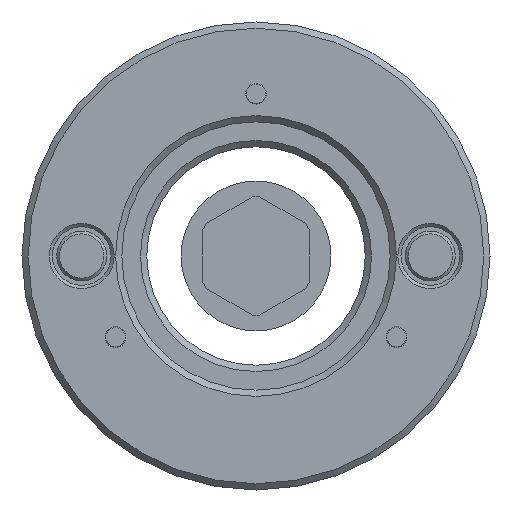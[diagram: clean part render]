
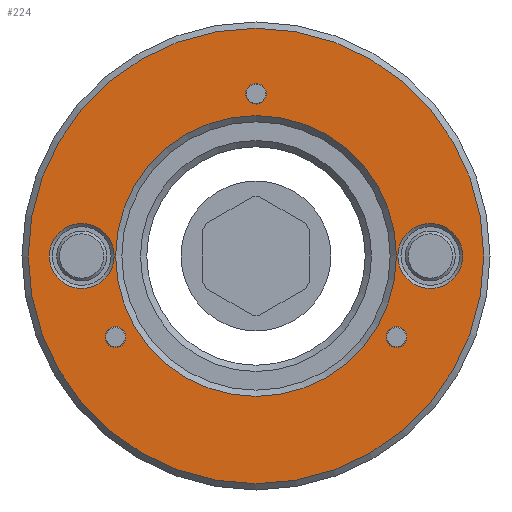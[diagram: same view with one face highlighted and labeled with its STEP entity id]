
A CAD part, front view. The second image highlights one B-rep face of the part: STEP entity #224.
In plain terms, the highlighted planar face has unit normal (0, -1, 0).
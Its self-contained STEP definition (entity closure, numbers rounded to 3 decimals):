
#224 = ADVANCED_FACE( '', ( #405, #406, #407, #408, #409, #410, #411 ), #412, .T. );
#405 = FACE_OUTER_BOUND( '', #781, .T. );
#406 = FACE_BOUND( '', #782, .T. );
#407 = FACE_BOUND( '', #783, .T. );
#408 = FACE_BOUND( '', #784, .T. );
#409 = FACE_BOUND( '', #785, .T. );
#410 = FACE_BOUND( '', #786, .T. );
#411 = FACE_BOUND( '', #787, .T. );
#412 = PLANE( '', #788 );
#781 = EDGE_LOOP( '', ( #1203 ) );
#782 = EDGE_LOOP( '', ( #1204 ) );
#783 = EDGE_LOOP( '', ( #1205 ) );
#784 = EDGE_LOOP( '', ( #1206 ) );
#785 = EDGE_LOOP( '', ( #1207 ) );
#786 = EDGE_LOOP( '', ( #1208 ) );
#787 = EDGE_LOOP( '', ( #1209 ) );
#788 = AXIS2_PLACEMENT_3D( '', #1210, #1211, #1212 );
#1203 = ORIENTED_EDGE( '', *, *, #2017, .T. );
#1204 = ORIENTED_EDGE( '', *, *, #2000, .T. );
#1205 = ORIENTED_EDGE( '', *, *, #2018, .F. );
#1206 = ORIENTED_EDGE( '', *, *, #2006, .F. );
#1207 = ORIENTED_EDGE( '', *, *, #2008, .F. );
#1208 = ORIENTED_EDGE( '', *, *, #2010, .F. );
#1209 = ORIENTED_EDGE( '', *, *, #2019, .F. );
#1210 = CARTESIAN_POINT( '', ( 22.5, 0., 0. ) );
#1211 = DIRECTION( '', ( 0., -1., 0. ) );
#1212 = DIRECTION( '', ( 0., 0., -1. ) );
#2000 = EDGE_CURVE( '', #2246, #2246, #2247, .F. );
#2006 = EDGE_CURVE( '', #2258, #2258, #2259, .T. );
#2008 = EDGE_CURVE( '', #2262, #2262, #2263, .T. );
#2010 = EDGE_CURVE( '', #2266, #2266, #2267, .T. );
#2017 = EDGE_CURVE( '', #2280, #2280, #2281, .T. );
#2018 = EDGE_CURVE( '', #2282, #2282, #2283, .T. );
#2019 = EDGE_CURVE( '', #2284, #2284, #2285, .T. );
#2246 = VERTEX_POINT( '', #2674 );
#2247 = CIRCLE( '', #2675, 5.2 );
#2258 = VERTEX_POINT( '', #2686 );
#2259 = CIRCLE( '', #2687, 1.65 );
#2262 = VERTEX_POINT( '', #2690 );
#2263 = CIRCLE( '', #2691, 1.65 );
#2266 = VERTEX_POINT( '', #2694 );
#2267 = CIRCLE( '', #2695, 1.65 );
#2280 = VERTEX_POINT( '', #2708 );
#2281 = CIRCLE( '', #2709, 36.5 );
#2282 = VERTEX_POINT( '', #2710 );
#2283 = CIRCLE( '', #2711, 5.2 );
#2284 = VERTEX_POINT( '', #2712 );
#2285 = CIRCLE( '', #2713, 22.5 );
#2674 = CARTESIAN_POINT( '', ( 27.93, 0., -5.2 ) );
#2675 = AXIS2_PLACEMENT_3D( '', #3207, #3208, #3209 );
#2686 = CARTESIAN_POINT( '', ( 22.517, 0., -14.65 ) );
#2687 = AXIS2_PLACEMENT_3D( '', #3225, #3226, #3227 );
#2690 = CARTESIAN_POINT( '', ( -22.517, 0., -14.65 ) );
#2691 = AXIS2_PLACEMENT_3D( '', #3231, #3232, #3233 );
#2694 = CARTESIAN_POINT( '', ( 0., 0., 24.35 ) );
#2695 = AXIS2_PLACEMENT_3D( '', #3237, #3238, #3239 );
#2708 = CARTESIAN_POINT( '', ( 0., 0., -36.5 ) );
#2709 = AXIS2_PLACEMENT_3D( '', #3258, #3259, #3260 );
#2710 = CARTESIAN_POINT( '', ( -27.93, 0., -5.2 ) );
#2711 = AXIS2_PLACEMENT_3D( '', #3261, #3262, #3263 );
#2712 = CARTESIAN_POINT( '', ( 0., 0., -22.5 ) );
#2713 = AXIS2_PLACEMENT_3D( '', #3264, #3265, #3266 );
#3207 = CARTESIAN_POINT( '', ( 27.93, 0., 0. ) );
#3208 = DIRECTION( '', ( 0., -1., 0. ) );
#3209 = DIRECTION( '', ( 0., 0., -1. ) );
#3225 = CARTESIAN_POINT( '', ( 22.517, 0., -13. ) );
#3226 = DIRECTION( '', ( 0., -1., 0. ) );
#3227 = DIRECTION( '', ( 0., 0., -1. ) );
#3231 = CARTESIAN_POINT( '', ( -22.517, 0., -13. ) );
#3232 = DIRECTION( '', ( 0., -1., 0. ) );
#3233 = DIRECTION( '', ( 0., 0., -1. ) );
#3237 = CARTESIAN_POINT( '', ( 0., 0., 26. ) );
#3238 = DIRECTION( '', ( 0., -1., 0. ) );
#3239 = DIRECTION( '', ( 0., 0., -1. ) );
#3258 = CARTESIAN_POINT( '', ( 0., 0., 0. ) );
#3259 = DIRECTION( '', ( 0., -1., 0. ) );
#3260 = DIRECTION( '', ( 0., 0., -1. ) );
#3261 = CARTESIAN_POINT( '', ( -27.93, 0., 0. ) );
#3262 = DIRECTION( '', ( 0., -1., 0. ) );
#3263 = DIRECTION( '', ( 0., 0., -1. ) );
#3264 = CARTESIAN_POINT( '', ( 0., 0., 0. ) );
#3265 = DIRECTION( '', ( 0., -1., 0. ) );
#3266 = DIRECTION( '', ( 0., 0., -1. ) );
